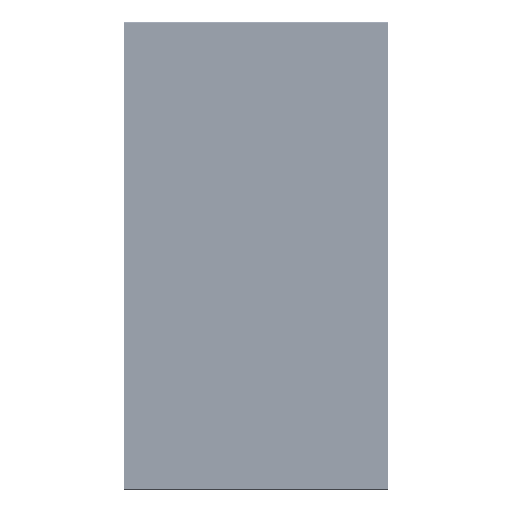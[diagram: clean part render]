
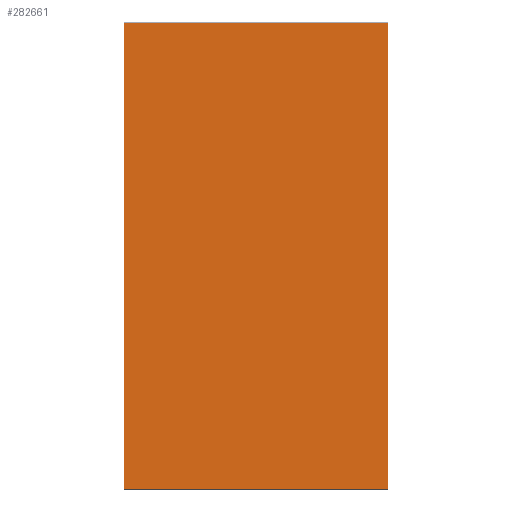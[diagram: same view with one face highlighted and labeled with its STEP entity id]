
A CAD part, front view. The second image highlights one B-rep face of the part: STEP entity #282661.
In plain terms, the highlighted planar face has unit normal (0, -1, 0).
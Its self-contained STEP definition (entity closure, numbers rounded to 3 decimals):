
#31445=FACE_OUTER_BOUND('',#49480,.T.);
#49480=EDGE_LOOP('',(#255662,#255663,#255664,#255665));
#81333=LINE('',#472504,#113543);
#81334=LINE('',#472521,#113544);
#81336=LINE('',#472564,#113546);
#81339=LINE('',#472607,#113549);
#113543=VECTOR('',#369571,1000.);
#113544=VECTOR('',#369574,1000.);
#113546=VECTOR('',#369578,1000.);
#113549=VECTOR('',#369583,1000.);
#143586=VERTEX_POINT('',#472492);
#143587=VERTEX_POINT('',#472503);
#143588=VERTEX_POINT('',#472520);
#143590=VERTEX_POINT('',#472563);
#181082=EDGE_CURVE('',#143586,#143587,#81333,.T.);
#181084=EDGE_CURVE('',#143588,#143586,#81334,.T.);
#181089=EDGE_CURVE('',#143587,#143590,#81336,.T.);
#181095=EDGE_CURVE('',#143590,#143588,#81339,.T.);
#255662=ORIENTED_EDGE('',*,*,#181089,.F.);
#255663=ORIENTED_EDGE('',*,*,#181082,.F.);
#255664=ORIENTED_EDGE('',*,*,#181084,.F.);
#255665=ORIENTED_EDGE('',*,*,#181095,.F.);
#269193=PLANE('',#301594);
#282661=ADVANCED_FACE('',(#31445),#269193,.T.);
#301594=AXIS2_PLACEMENT_3D('',#472608,#369584,#369585);
#369571=DIRECTION('',(0.,0.,1.));
#369574=DIRECTION('',(-1.,0.,0.));
#369578=DIRECTION('',(1.,0.,0.));
#369583=DIRECTION('',(0.,0.,-1.));
#369584=DIRECTION('center_axis',(0.,-1.,0.));
#369585=DIRECTION('ref_axis',(1.,0.,0.));
#472492=CARTESIAN_POINT('',(-606.505,-1.6,-341.91));
#472503=CARTESIAN_POINT('',(-606.505,-1.6,341.91));
#472504=CARTESIAN_POINT('',(-606.505,-1.6,-343.037));
#472520=CARTESIAN_POINT('',(606.505,-1.6,-341.91));
#472521=CARTESIAN_POINT('',(607.632,-1.6,-341.91));
#472563=CARTESIAN_POINT('',(606.505,-1.6,341.91));
#472564=CARTESIAN_POINT('',(-607.632,-1.6,341.91));
#472607=CARTESIAN_POINT('',(606.505,-1.6,343.037));
#472608=CARTESIAN_POINT('Origin',(564.595,-1.6,343.037));
